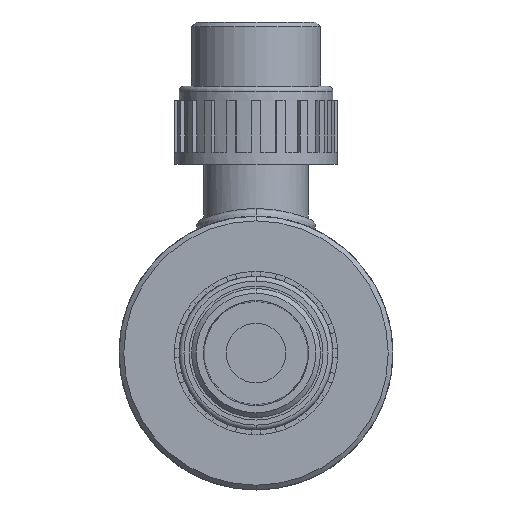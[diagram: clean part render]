
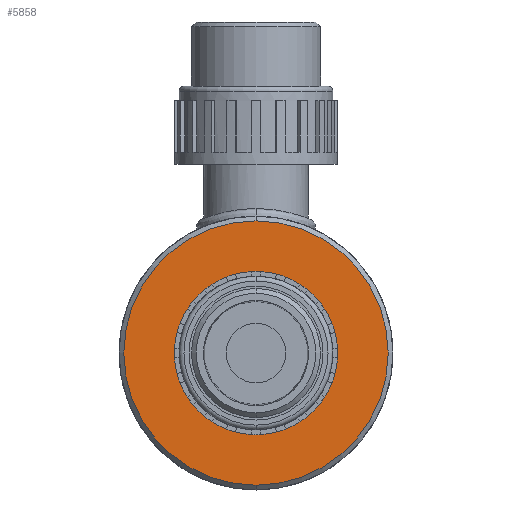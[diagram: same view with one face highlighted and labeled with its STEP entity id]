
A CAD part, front view. The second image highlights one B-rep face of the part: STEP entity #5858.
In plain terms, the highlighted planar face has unit normal (0, -1, 0).
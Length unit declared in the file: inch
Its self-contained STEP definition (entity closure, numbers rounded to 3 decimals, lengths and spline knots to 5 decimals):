
#146 = CARTESIAN_POINT ( 'NONE',  ( 0., 0., 1.665 ) ) ;
#153 = VERTEX_POINT ( 'NONE', #146 ) ;
#173 = CARTESIAN_POINT ( 'NONE',  ( 0., 0., 0.7505 ) ) ;
#269 = DIRECTION ( 'NONE',  ( 0., 0., 1. ) ) ;
#744 = DIRECTION ( 'NONE',  ( 0., 1., 0. ) ) ;
#842 = AXIS2_PLACEMENT_3D ( 'NONE', #5941, #744, #6823 ) ;
#911 = EDGE_LOOP ( 'NONE', ( #4229, #8352 ) ) ;
#984 = AXIS2_PLACEMENT_3D ( 'NONE', #4222, #10329, #5073 ) ;
#1292 = DIRECTION ( 'NONE',  ( 0., 1., 0. ) ) ;
#1437 = FACE_BOUND ( 'NONE', #8194, .T. ) ;
#1649 = VERTEX_POINT ( 'NONE', #7690 ) ;
#2198 = ORIENTED_EDGE ( 'NONE', *, *, #6729, .T. ) ;
#2202 = EDGE_CURVE ( 'NONE', #7356, #153, #3474, .T. ) ;
#2330 = EDGE_CURVE ( 'NONE', #6282, #1649, #6495, .T. ) ;
#3048 = CARTESIAN_POINT ( 'NONE',  ( 0., 0., 0. ) ) ;
#3416 = CIRCLE ( 'NONE', #842, 0.7505 ) ;
#3456 = FACE_OUTER_BOUND ( 'NONE', #911, .T. ) ;
#3474 = CIRCLE ( 'NONE', #5074, 1.665 ) ;
#3875 = CARTESIAN_POINT ( 'NONE',  ( 0., 0., 0. ) ) ;
#3917 = DIRECTION ( 'NONE',  ( 0., 0., 1. ) ) ;
#4222 = CARTESIAN_POINT ( 'NONE',  ( 0., 0., 0. ) ) ;
#4229 = ORIENTED_EDGE ( 'NONE', *, *, #5249, .T. ) ;
#5073 = DIRECTION ( 'NONE',  ( 0., 0., 1. ) ) ;
#5074 = AXIS2_PLACEMENT_3D ( 'NONE', #10733, #5486, #269 ) ;
#5249 = EDGE_CURVE ( 'NONE', #153, #7356, #8686, .T. ) ;
#5486 = DIRECTION ( 'NONE',  ( 0., -1., 0. ) ) ;
#5500 = CARTESIAN_POINT ( 'NONE',  ( 0., 0., -1.665 ) ) ;
#5858 = ADVANCED_FACE ( 'NONE', ( #1437, #3456 ), #9133, .F. ) ;
#5941 = CARTESIAN_POINT ( 'NONE',  ( 0., 0., 0. ) ) ;
#6282 = VERTEX_POINT ( 'NONE', #173 ) ;
#6495 = CIRCLE ( 'NONE', #10369, 0.7505 ) ;
#6729 = EDGE_CURVE ( 'NONE', #1649, #6282, #3416, .T. ) ;
#6823 = DIRECTION ( 'NONE',  ( 0., 0., 1. ) ) ;
#6909 = ORIENTED_EDGE ( 'NONE', *, *, #2330, .T. ) ;
#7356 = VERTEX_POINT ( 'NONE', #5500 ) ;
#7375 = DIRECTION ( 'NONE',  ( 0., 0., 1. ) ) ;
#7690 = CARTESIAN_POINT ( 'NONE',  ( 0., 0., -0.7505 ) ) ;
#8149 = AXIS2_PLACEMENT_3D ( 'NONE', #3875, #1292, #7375 ) ;
#8194 = EDGE_LOOP ( 'NONE', ( #6909, #2198 ) ) ;
#8352 = ORIENTED_EDGE ( 'NONE', *, *, #2202, .T. ) ;
#8686 = CIRCLE ( 'NONE', #984, 1.665 ) ;
#9133 = PLANE ( 'NONE',  #8149 ) ;
#9178 = DIRECTION ( 'NONE',  ( 0., 1., 0. ) ) ;
#10329 = DIRECTION ( 'NONE',  ( 0., -1., 0. ) ) ;
#10369 = AXIS2_PLACEMENT_3D ( 'NONE', #3048, #9178, #3917 ) ;
#10733 = CARTESIAN_POINT ( 'NONE',  ( 0., 0., 0. ) ) ;
